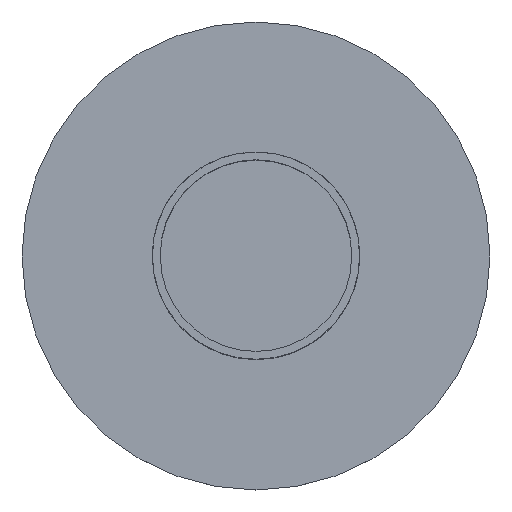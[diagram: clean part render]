
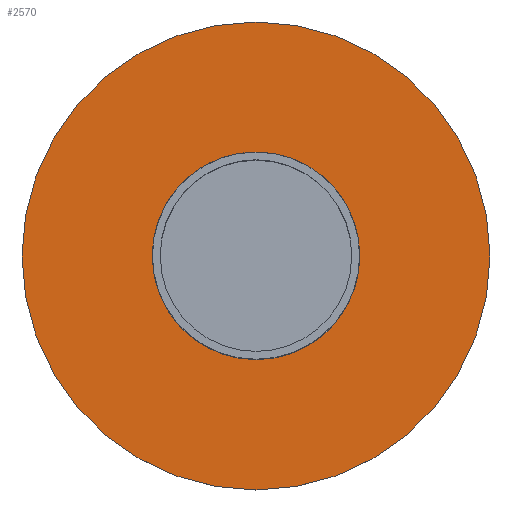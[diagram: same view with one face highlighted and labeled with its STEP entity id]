
A CAD part, top view. The second image highlights one B-rep face of the part: STEP entity #2570.
In plain terms, the highlighted planar face has unit normal (0, 0, 1).
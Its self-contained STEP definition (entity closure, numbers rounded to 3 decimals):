
#36=FACE_BOUND('',#481,.T.);
#40=CIRCLE('',#2652,39.85);
#41=CIRCLE('',#2655,90.);
#85=PLANE('',#2657);
#312=FACE_OUTER_BOUND('',#480,.T.);
#480=EDGE_LOOP('',(#2399));
#481=EDGE_LOOP('',(#2400));
#1292=VERTEX_POINT('',#5441);
#1293=VERTEX_POINT('',#5446);
#1660=EDGE_CURVE('',#1292,#1292,#40,.T.);
#1661=EDGE_CURVE('',#1293,#1293,#41,.T.);
#2399=ORIENTED_EDGE('',*,*,#1661,.T.);
#2400=ORIENTED_EDGE('',*,*,#1660,.T.);
#2570=ADVANCED_FACE('',(#312,#36),#85,.T.);
#2652=AXIS2_PLACEMENT_3D('',#5443,#2995,#2996);
#2655=AXIS2_PLACEMENT_3D('',#5447,#3001,#3002);
#2657=AXIS2_PLACEMENT_3D('',#5451,#3006,#3007);
#2995=DIRECTION('center_axis',(0.,0.,-1.));
#2996=DIRECTION('ref_axis',(1.,0.,0.));
#3001=DIRECTION('center_axis',(0.,0.,1.));
#3002=DIRECTION('ref_axis',(1.,0.,0.));
#3006=DIRECTION('center_axis',(0.,0.,1.));
#3007=DIRECTION('ref_axis',(1.,0.,0.));
#5441=CARTESIAN_POINT('',(-39.85,0.,3.));
#5443=CARTESIAN_POINT('Origin',(0.,0.,3.));
#5446=CARTESIAN_POINT('',(-90.,0.,3.));
#5447=CARTESIAN_POINT('Origin',(0.,0.,3.));
#5451=CARTESIAN_POINT('Origin',(0.,0.,3.));
